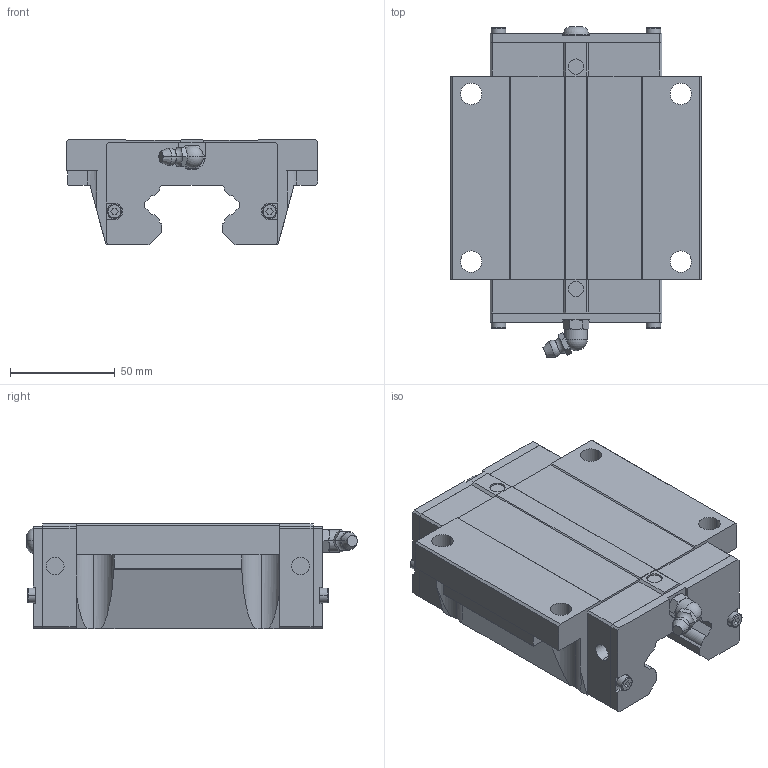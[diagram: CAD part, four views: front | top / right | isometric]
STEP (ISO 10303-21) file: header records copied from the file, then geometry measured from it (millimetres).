
FILE_DESCRIPTION(('no description'),'unknown implementation level');
FILE_NAME('HGW45CC_Z0_H_SS_24.stp',' ',('HIWIN GmbH'),('CADClick - KiM GmbH - www.kimweb.de'),'unknown preprocess','ACIS','unknown authorization');
FILE_SCHEMA(('automotive_design'));
Length unit declared in the file: millimetre
Products named in the file (1): HGW45CC Z0 H SS
Bounding box: 120 x 157.72 x 50.5 mm (x, y, z)
Volume: 502548.5 mm3; surface area: 64977.7 mm2
Topology: 1 solids, 6 shells, 311 faces, 811 edges, 521 vertices
Faces by surface type: plane 197, cylinder 68, torus 30, cone 14, sphere 2
Entity records: 18840 total; most frequent: CARTESIAN_POINT 1942, STYLED_ITEM 1642, PRESENTATION_STYLE_ASSIGNMENT 1642, COLOUR_RGB 1642, ORIENTED_EDGE 1618, DIRECTION 1614, EDGE_CURVE 809, CURVE_STYLE 809
